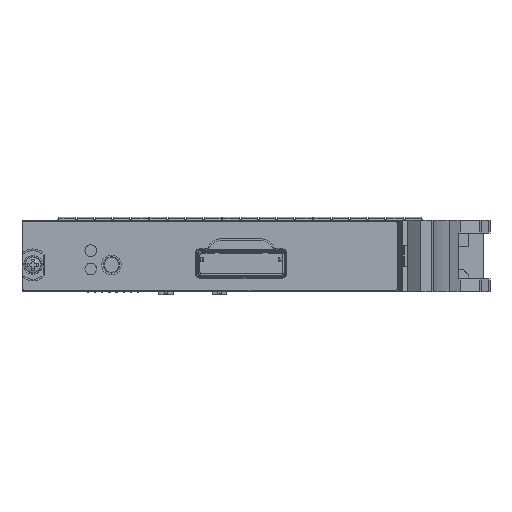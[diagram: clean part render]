
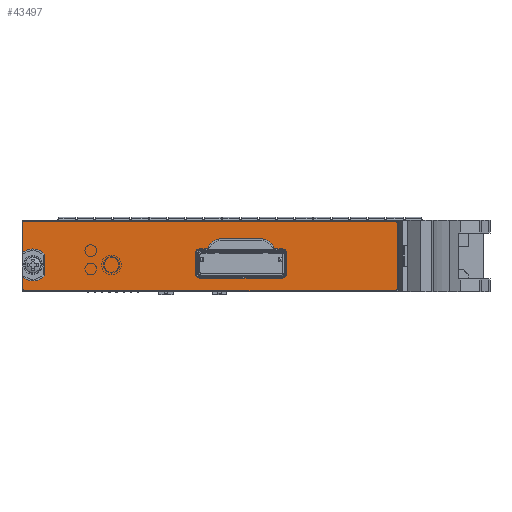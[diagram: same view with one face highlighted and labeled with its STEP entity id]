
A CAD part, left-side view. The second image highlights one B-rep face of the part: STEP entity #43497.
In plain terms, the highlighted planar face has unit normal (-1, 0, 0).
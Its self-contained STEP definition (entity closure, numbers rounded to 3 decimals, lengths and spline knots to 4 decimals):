
#5414=CARTESIAN_POINT('',(-0.3532,4.256,
0.6077));
#5415=DIRECTION('',(-1.,0.,0.));
#5416=DIRECTION('',(0.,0.,1.));
#5417=AXIS2_PLACEMENT_3D('',#5414,#5415,#5416);
#5419=DIRECTION('',(0.,1.,0.));
#5420=VECTOR('',#5419,4.07);
#5421=CARTESIAN_POINT('',(-0.353,0.186,
0.6277));
#5422=LINE('',#5421,#5420);
#5423=CARTESIAN_POINT('',(-0.353,0.186,
0.6077));
#5424=DIRECTION('',(-1.,0.,0.));
#5425=DIRECTION('',(0.,-1.,0.));
#5426=AXIS2_PLACEMENT_3D('',#5423,#5424,#5425);
#5428=DIRECTION('',(0.,0.,1.));
#5429=VECTOR('',#5428,0.728);
#5430=CARTESIAN_POINT('',(-0.353,0.166,
-0.1203));
#5431=LINE('',#5430,#5429);
#5432=CARTESIAN_POINT('',(-0.353,0.186,
-0.1203));
#5433=DIRECTION('',(-1.,0.,0.));
#5434=DIRECTION('',(0.,0.,-1.));
#5435=AXIS2_PLACEMENT_3D('',#5432,#5433,#5434);
#5437=DIRECTION('',(0.,-1.,0.));
#5438=VECTOR('',#5437,4.07);
#5439=CARTESIAN_POINT('',(-0.3532,4.256,
-0.1403));
#5440=LINE('',#5439,#5438);
#5441=CARTESIAN_POINT('',(-0.3532,4.256,
-0.1203));
#5442=DIRECTION('',(-1.,0.,0.));
#5443=DIRECTION('',(0.,1.,0.));
#5444=AXIS2_PLACEMENT_3D('',#5441,#5442,#5443);
#5446=DIRECTION('',(0.,0.,-1.));
#5447=VECTOR('',#5446,0.1295);
#5448=CARTESIAN_POINT('',(-0.3532,4.276,
0.0092));
#5449=LINE('',#5448,#5447);
#5450=CARTESIAN_POINT('',(-0.3532,4.164,
0.1437));
#5451=DIRECTION('',(1.,0.,0.));
#5452=DIRECTION('',(0.,-0.737,-0.676));
#5453=AXIS2_PLACEMENT_3D('',#5450,#5451,#5452);
#5455=DIRECTION('',(0.,0.,-1.));
#5456=VECTOR('',#5455,0.2365);
#5457=CARTESIAN_POINT('',(-0.3532,4.035,
0.262));
#5458=LINE('',#5457,#5456);
#5459=CARTESIAN_POINT('',(-0.3532,4.164,
0.1437));
#5460=DIRECTION('',(1.,0.,0.));
#5461=DIRECTION('',(0.,0.64,0.768));
#5462=AXIS2_PLACEMENT_3D('',#5459,#5460,#5461);
#5464=DIRECTION('',(0.,0.,-1.));
#5465=VECTOR('',#5464,0.3295);
#5466=CARTESIAN_POINT('',(-0.3532,4.276,
0.6077));
#5467=LINE('',#5466,#5465);
#5468=DIRECTION('',(0.,-1.,0.));
#5469=VECTOR('',#5468,0.904);
#5470=CARTESIAN_POINT('',(-0.3531,2.332,
-0.0003));
#5471=LINE('',#5470,#5469);
#5472=CARTESIAN_POINT('',(-0.3531,1.428,
0.0497));
#5473=DIRECTION('',(-1.,0.,0.));
#5474=DIRECTION('',(0.,0.,-1.));
#5475=AXIS2_PLACEMENT_3D('',#5472,#5473,#5474);
#5477=DIRECTION('',(0.,0.,1.));
#5478=VECTOR('',#5477,0.22);
#5479=CARTESIAN_POINT('',(-0.3531,1.378,
0.0497));
#5480=LINE('',#5479,#5478);
#5481=CARTESIAN_POINT('',(-0.3531,1.428,
0.2697));
#5482=DIRECTION('',(-1.,0.,0.));
#5483=DIRECTION('',(0.,-1.,0.));
#5484=AXIS2_PLACEMENT_3D('',#5481,#5482,#5483);
#5486=DIRECTION('',(0.,1.,0.));
#5487=VECTOR('',#5486,0.092);
#5488=CARTESIAN_POINT('',(-0.3531,1.428,
0.3197));
#5489=LINE('',#5488,#5487);
#5490=CARTESIAN_POINT('',(-0.3531,1.6526,
0.2947));
#5491=DIRECTION('',(-1.,0.,0.));
#5492=DIRECTION('',(0.,-0.983,0.185));
#5493=AXIS2_PLACEMENT_3D('',#5490,#5491,#5492);
#5495=DIRECTION('',(0.,1.,0.));
#5496=VECTOR('',#5495,0.4547);
#5497=CARTESIAN_POINT('',(-0.3531,1.6526,
0.4297));
#5498=LINE('',#5497,#5496);
#5499=CARTESIAN_POINT('',(-0.3531,2.1073,
0.2947));
#5500=DIRECTION('',(-1.,0.,0.));
#5501=DIRECTION('',(0.,0.,1.));
#5502=AXIS2_PLACEMENT_3D('',#5499,#5500,#5501);
#5504=DIRECTION('',(0.,1.,0.));
#5505=VECTOR('',#5504,0.092);
#5506=CARTESIAN_POINT('',(-0.3531,2.24,
0.3197));
#5507=LINE('',#5506,#5505);
#5508=CARTESIAN_POINT('',(-0.3531,2.332,
0.2697));
#5509=DIRECTION('',(-1.,0.,0.));
#5510=DIRECTION('',(0.,0.,1.));
#5511=AXIS2_PLACEMENT_3D('',#5508,#5509,#5510);
#5513=DIRECTION('',(0.,0.,-1.));
#5514=VECTOR('',#5513,0.22);
#5515=CARTESIAN_POINT('',(-0.3531,2.382,
0.2697));
#5516=LINE('',#5515,#5514);
#5517=CARTESIAN_POINT('',(-0.3531,2.332,
0.0497));
#5518=DIRECTION('',(-1.,0.,0.));
#5519=DIRECTION('',(0.,1.,0.));
#5520=AXIS2_PLACEMENT_3D('',#5517,#5518,#5519);
#37812=CARTESIAN_POINT('',(-0.3532,4.256,
0.6277));
#37813=CARTESIAN_POINT('',(-0.3532,4.276,
0.6077));
#37814=VERTEX_POINT('',#37812);
#37815=VERTEX_POINT('',#37813);
#37816=CARTESIAN_POINT('',(-0.3532,4.276,
0.2782));
#37817=VERTEX_POINT('',#37816);
#37818=CARTESIAN_POINT('',(-0.3532,4.035,
0.262));
#37819=VERTEX_POINT('',#37818);
#37820=CARTESIAN_POINT('',(-0.3532,4.035,
0.0254));
#37821=VERTEX_POINT('',#37820);
#37822=CARTESIAN_POINT('',(-0.3532,4.276,
0.0092));
#37823=VERTEX_POINT('',#37822);
#37824=CARTESIAN_POINT('',(-0.3532,4.276,
-0.1203));
#37825=VERTEX_POINT('',#37824);
#37826=CARTESIAN_POINT('',(-0.3532,4.256,
-0.1403));
#37827=VERTEX_POINT('',#37826);
#37828=CARTESIAN_POINT('',(-0.353,0.186,
-0.1403));
#37829=VERTEX_POINT('',#37828);
#37830=CARTESIAN_POINT('',(-0.353,0.166,
-0.1203));
#37831=VERTEX_POINT('',#37830);
#37832=CARTESIAN_POINT('',(-0.353,0.166,
0.6077));
#37833=VERTEX_POINT('',#37832);
#37834=CARTESIAN_POINT('',(-0.353,0.186,
0.6277));
#37835=VERTEX_POINT('',#37834);
#37836=CARTESIAN_POINT('',(-0.3531,2.332,
-0.0003));
#37837=CARTESIAN_POINT('',(-0.3531,1.428,
-0.0003));
#37838=VERTEX_POINT('',#37836);
#37839=VERTEX_POINT('',#37837);
#37840=CARTESIAN_POINT('',(-0.3531,1.378,
0.0497));
#37841=CARTESIAN_POINT('',(-0.3531,1.378,
0.2697));
#37842=VERTEX_POINT('',#37840);
#37843=VERTEX_POINT('',#37841);
#37844=CARTESIAN_POINT('',(-0.3531,1.428,
0.3197));
#37845=CARTESIAN_POINT('',(-0.3531,1.52,
0.3197));
#37846=VERTEX_POINT('',#37844);
#37847=VERTEX_POINT('',#37845);
#37848=CARTESIAN_POINT('',(-0.3531,1.6526,
0.4297));
#37849=VERTEX_POINT('',#37848);
#37850=CARTESIAN_POINT('',(-0.3531,2.1073,
0.4297));
#37851=VERTEX_POINT('',#37850);
#37852=CARTESIAN_POINT('',(-0.3531,2.24,
0.3197));
#37853=VERTEX_POINT('',#37852);
#37854=CARTESIAN_POINT('',(-0.3531,2.332,
0.3197));
#37855=VERTEX_POINT('',#37854);
#37856=CARTESIAN_POINT('',(-0.3531,2.382,
0.2697));
#37857=CARTESIAN_POINT('',(-0.3531,2.382,
0.0497));
#37858=VERTEX_POINT('',#37856);
#37859=VERTEX_POINT('',#37857);
#43451=CARTESIAN_POINT('',(-0.3532,4.164,
0.1437));
#43452=DIRECTION('',(-1.,0.,0.));
#43453=DIRECTION('',(0.,0.,1.));
#43454=AXIS2_PLACEMENT_3D('',#43451,#43452,#43453);
#43455=PLANE('',#43454);
#43456=ORIENTED_EDGE('',*,*,#39879,.F.);
#43458=ORIENTED_EDGE('',*,*,#43457,.F.);
#43459=ORIENTED_EDGE('',*,*,#43318,.F.);
#43460=ORIENTED_EDGE('',*,*,#43334,.F.);
#43461=ORIENTED_EDGE('',*,*,#43348,.F.);
#43462=ORIENTED_EDGE('',*,*,#43362,.F.);
#43463=ORIENTED_EDGE('',*,*,#43376,.F.);
#43464=ORIENTED_EDGE('',*,*,#43390,.F.);
#43465=ORIENTED_EDGE('',*,*,#43404,.F.);
#43466=ORIENTED_EDGE('',*,*,#43418,.F.);
#43467=ORIENTED_EDGE('',*,*,#43432,.F.);
#43468=ORIENTED_EDGE('',*,*,#43445,.F.);
#43469=EDGE_LOOP('',(#43456,#43458,#43459,#43460,#43461,#43462,#43463,#43464,
#43465,#43466,#43467,#43468));
#43470=FACE_OUTER_BOUND('',#43469,.F.);
#43472=ORIENTED_EDGE('',*,*,#43471,.T.);
#43474=ORIENTED_EDGE('',*,*,#43473,.T.);
#43476=ORIENTED_EDGE('',*,*,#43475,.T.);
#43478=ORIENTED_EDGE('',*,*,#43477,.T.);
#43480=ORIENTED_EDGE('',*,*,#43479,.T.);
#43482=ORIENTED_EDGE('',*,*,#43481,.T.);
#43484=ORIENTED_EDGE('',*,*,#43483,.T.);
#43486=ORIENTED_EDGE('',*,*,#43485,.T.);
#43488=ORIENTED_EDGE('',*,*,#43487,.T.);
#43490=ORIENTED_EDGE('',*,*,#43489,.T.);
#43492=ORIENTED_EDGE('',*,*,#43491,.T.);
#43494=ORIENTED_EDGE('',*,*,#43493,.T.);
#43495=EDGE_LOOP('',(#43472,#43474,#43476,#43478,#43480,#43482,#43484,#43486,
#43488,#43490,#43492,#43494));
#43496=FACE_BOUND('',#43495,.F.);
#43497=ADVANCED_FACE('',(#43470,#43496),#43455,.T.);
#5418=CIRCLE('',#5417,0.02);
#5427=CIRCLE('',#5426,0.02);
#5436=CIRCLE('',#5435,0.02);
#5445=CIRCLE('',#5444,0.02);
#5454=CIRCLE('',#5453,0.175);
#5463=CIRCLE('',#5462,0.175);
#5476=CIRCLE('',#5475,0.05);
#5485=CIRCLE('',#5484,0.05);
#5494=CIRCLE('',#5493,0.135);
#5503=CIRCLE('',#5502,0.135);
#5512=CIRCLE('',#5511,0.05);
#5521=CIRCLE('',#5520,0.05);
#39879=EDGE_CURVE('',#37814,#37815,#5418,.T.);
#43318=EDGE_CURVE('',#37833,#37835,#5427,.T.);
#43334=EDGE_CURVE('',#37831,#37833,#5431,.T.);
#43348=EDGE_CURVE('',#37829,#37831,#5436,.T.);
#43362=EDGE_CURVE('',#37827,#37829,#5440,.T.);
#43376=EDGE_CURVE('',#37825,#37827,#5445,.T.);
#43390=EDGE_CURVE('',#37823,#37825,#5449,.T.);
#43404=EDGE_CURVE('',#37821,#37823,#5454,.T.);
#43418=EDGE_CURVE('',#37819,#37821,#5458,.T.);
#43432=EDGE_CURVE('',#37817,#37819,#5463,.T.);
#43445=EDGE_CURVE('',#37815,#37817,#5467,.T.);
#43457=EDGE_CURVE('',#37835,#37814,#5422,.T.);
#43471=EDGE_CURVE('',#37838,#37839,#5471,.T.);
#43473=EDGE_CURVE('',#37839,#37842,#5476,.T.);
#43475=EDGE_CURVE('',#37842,#37843,#5480,.T.);
#43477=EDGE_CURVE('',#37843,#37846,#5485,.T.);
#43479=EDGE_CURVE('',#37846,#37847,#5489,.T.);
#43481=EDGE_CURVE('',#37847,#37849,#5494,.T.);
#43483=EDGE_CURVE('',#37849,#37851,#5498,.T.);
#43485=EDGE_CURVE('',#37851,#37853,#5503,.T.);
#43487=EDGE_CURVE('',#37853,#37855,#5507,.T.);
#43489=EDGE_CURVE('',#37855,#37858,#5512,.T.);
#43491=EDGE_CURVE('',#37858,#37859,#5516,.T.);
#43493=EDGE_CURVE('',#37859,#37838,#5521,.T.);
